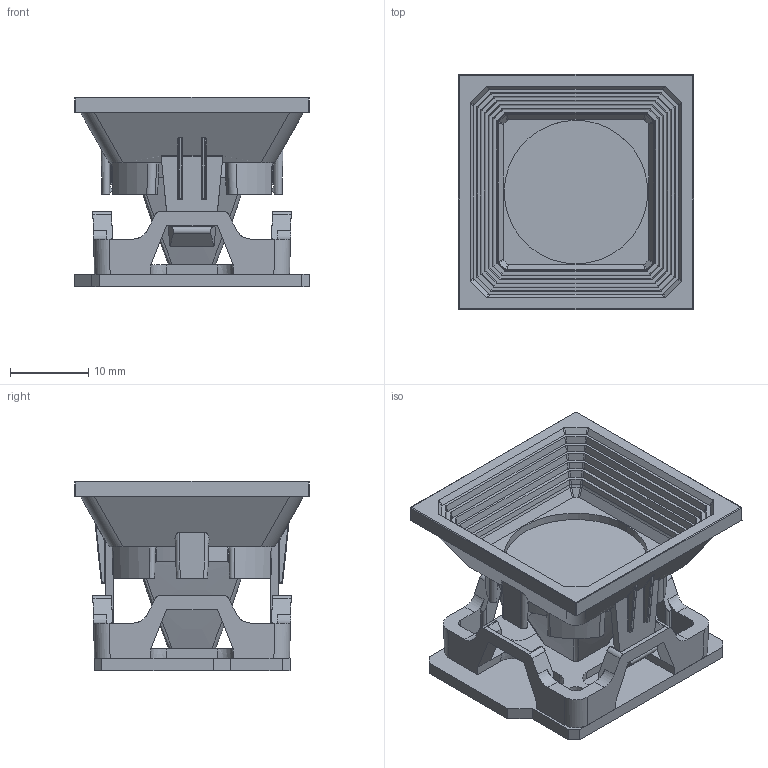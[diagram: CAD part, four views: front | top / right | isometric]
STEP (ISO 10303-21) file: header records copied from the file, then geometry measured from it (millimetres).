
FILE_DESCRIPTION(('Creo Elements/Direct Modeling STEP Export'),'2;1');
FILE_NAME('91701_z.stp','2026-09-11T15:41:28',(''),(''),'Creo Elements/Direct Modeling STEP processor for AP214 (Solid Model)','Creo Elements/Direct Modeling 20.9 29-May-2026 (C) Parametric Technology GmbH','');
FILE_SCHEMA(('AUTOMOTIVE_DESIGN { 1 0 10303 214 1 1 1 1 }'));
Length unit declared in the file: millimetre
Products named in the file (5): 91791; 91755; 91701; LED_Board_30mm; 91701_z
Assembly tree (4 placements, depth 2):
  91701_z
    LED_Board_30mm
    91701
    91755
    91791
Bounding box: 30 x 30 x 24.2 mm (x, y, z)
Volume: 5759.2 mm3; surface area: 7519.6 mm2
Topology: 4 solids, 4 shells, 596 faces, 1601 edges, 1011 vertices
Faces by surface type: plane 279, cylinder 208, bspline 49, cone 40, sphere 12, torus 8
Entity records: 29495 total; most frequent: CARTESIAN_POINT 11946, ORIENTED_EDGE 3178, DIRECTION 2825, EDGE_CURVE 1589, VERTEX_POINT 1011, VECTOR 973, LINE 973, AXIS2_PLACEMENT_3D 926
